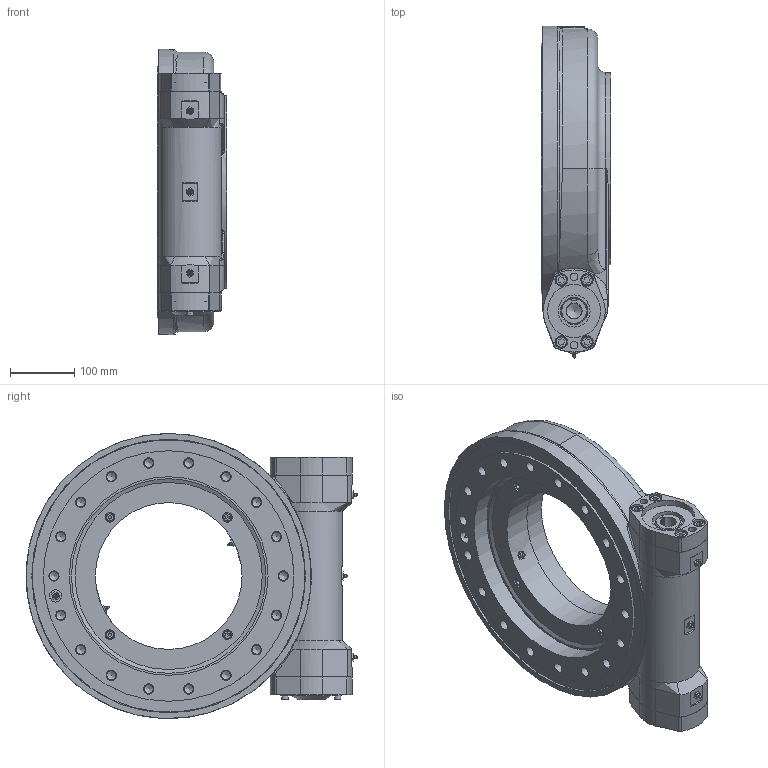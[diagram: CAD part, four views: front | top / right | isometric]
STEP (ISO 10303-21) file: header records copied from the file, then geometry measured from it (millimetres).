
FILE_DESCRIPTION (( 'STEP AP214' ), '1' );
FILE_NAME ('FWA12-79M-25H-R-REV.A.STEP', '2023-04-08T06:49:07', ( '' ), ( '' ), 'SwSTEP 2.0', 'SolidWorks 2018', '' );
FILE_SCHEMA (( 'AUTOMOTIVE_DESIGN' ));
Length unit declared in the file: millimetre
Products named in the file (1): FWA12-79M-25H-R-REV.A
Bounding box: 108 x 517.76 x 444.98 mm (x, y, z)
Volume: 8438241.7 mm3; surface area: 1402250.5 mm2
Topology: 19 solids, 19 shells, 903 faces, 1966 edges, 1259 vertices
Faces by surface type: plane 380, cylinder 300, cone 97, bspline 68, torus 52, sphere 6
Full cylindrical faces by diameter (mm): 5 x2, 6 x2, 7 x8, 8 x7, 9.093 x3, 10 x12, 10.084 x1, 10.2 x8, 12 x10, 13 x12, 14 x37, 15 x4, 16 x37, 18 x27, 19 x1, 19.5 x8, 24 x1, 25.4 x1, 35 x1, 40 x4, 41.908 x2, 47 x2, 50 x4, 57 x1, 66 x2, 68.5 x2, 75 x2, 80 x4, 82.55 x1, 82.8 x2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
Entity records: 38287 total; most frequent: CARTESIAN_POINT 10451, DIRECTION 3662, ORIENTED_EDGE 2988, AXIS2_PLACEMENT_3D 1560, EDGE_LOOP 1501, EDGE_CURVE 1494, FACE_OUTER_BOUND 1168, VERTEX_POINT 1151
